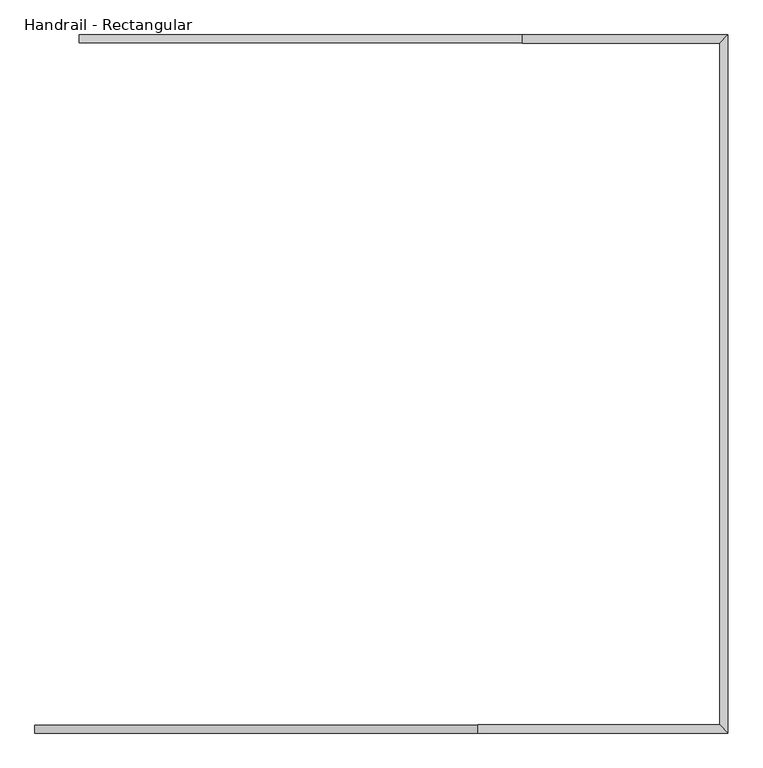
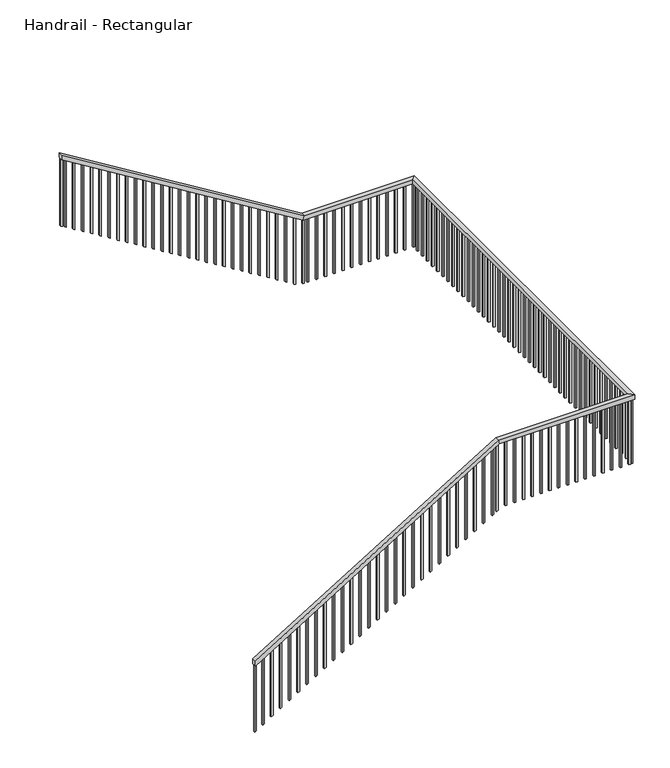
"""IFC4 building model written with IfcOpenShell, lengths in millimetres: railing geometry, Handrail - Rectangular."""

from ifc_helpers import new_model, si_unit, frame, origin, place, context, project, spatial, polyline, outline, extrude, faceted_brep, source, transform, mapped, element, save


def handrail_rectangular_f7c7f1c9(model_context):
    return source(origin(), model_context, "Body", "SolidModel", [
        faceted_brep([(447.564747, 6108.8260405, 31565.85), (447.564747, 6159.6260405, 31565.85), (447.564747, 6159.6260405, 31506.2481634), (447.564747, 6108.8260405, 31506.2481634), (3241.564747, 6108.8260405, 33280.35), (3241.564747, 6159.6260405, 33280.35), (3255.9084807, 6159.6260405, 33229.55), (3255.9084807, 6108.8260405, 33229.55), (4816.364747, 6108.8260405, 33280.35), (4765.564747, 6159.6260405, 33280.35), (4765.564747, 6159.6260405, 33229.55), (4816.364747, 6108.8260405, 33229.55), (4816.364747, 10506.2010405, 33280.35), (4765.564747, 10455.4010405, 33280.35), (4765.564747, 10455.4010405, 33229.55), (4816.364747, 10506.2010405, 33229.55), (3520.964747, 10506.2010405, 33280.35), (3520.964747, 10455.4010405, 33280.35), (3506.6210133, 10455.4010405, 33229.55), (3506.6210133, 10506.2010405, 33229.55), (726.964747, 10506.2010405, 34994.85), (726.964747, 10506.2010405, 34935.2481634), (726.964747, 10455.4010405, 34935.2481634), (726.964747, 10455.4010405, 34994.85)], [[[0, 1, 2, 3]], [[1, 0, 4, 5]], [[2, 1, 5, 6]], [[3, 2, 6, 7]], [[0, 3, 7, 4]], [[5, 4, 8, 9]], [[6, 5, 9, 10]], [[7, 6, 10, 11]], [[4, 7, 11, 8]], [[9, 8, 12, 13]], [[10, 9, 13, 14]], [[11, 10, 14, 15]], [[8, 11, 15, 12]], [[13, 12, 16, 17]], [[14, 13, 17, 18]], [[15, 14, 18, 19]], [[12, 15, 19, 16]], [[20, 21, 22, 23]], [[17, 16, 20, 23]], [[18, 17, 23, 22]], [[19, 18, 22, 21]], [[16, 19, 21, 20]]]),
        extrude(outline(polyline([(34898.2305498, 787.289747), (34909.9203225, 768.239747), (34096.4979284, 768.239747), (34084.8081556, 787.289747), (34898.2305498, 787.289747)])), frame((0.0, 10471.2760405, 0.0), z_axis=(0.0, 1.0, 0.0), x_axis=(0.0, 0.0, 1.0)), (0.0, 0.0, 1.0), 19.05),
        extrude(outline(polyline([(34835.8850952, 888.889747), (34847.5748679, 869.839747), (34034.1524738, 869.839747), (34022.4627011, 888.889747), (34835.8850952, 888.889747)])), frame((0.0, 10471.2760405, 0.0), z_axis=(0.0, 1.0, 0.0), x_axis=(0.0, 0.0, 1.0)), (0.0, 0.0, 1.0), 19.05),
        extrude(outline(polyline([(34773.5396407, 990.489747), (34785.2294134, 971.439747), (33971.8070193, 971.439747), (33960.1172466, 990.489747), (34773.5396407, 990.489747)])), frame((0.0, 10471.2760405, 0.0), z_axis=(0.0, 1.0, 0.0), x_axis=(0.0, 0.0, 1.0)), (0.0, 0.0, 1.0), 19.05),
        extrude(outline(polyline([(34711.1941861, 1092.089747), (34722.8839589, 1073.039747), (33909.4615647, 1073.039747), (33897.771792, 1092.089747), (34711.1941861, 1092.089747)])), frame((0.0, 10471.2760405, 0.0), z_axis=(0.0, 1.0, 0.0), x_axis=(0.0, 0.0, 1.0)), (0.0, 0.0, 1.0), 19.05),
        extrude(outline(polyline([(34648.8487316, 1193.689747), (34660.5385043, 1174.639747), (33847.1161102, 1174.639747), (33835.4263375, 1193.689747), (34648.8487316, 1193.689747)])), frame((0.0, 10471.2760405, 0.0), z_axis=(0.0, 1.0, 0.0), x_axis=(0.0, 0.0, 1.0)), (0.0, 0.0, 1.0), 19.05),
        extrude(outline(polyline([(34586.503277, 1295.289747), (34598.1930498, 1276.239747), (33784.7706556, 1276.239747), (33773.0808829, 1295.289747), (34586.503277, 1295.289747)])), frame((0.0, 10471.2760405, 0.0), z_axis=(0.0, 1.0, 0.0), x_axis=(0.0, 0.0, 1.0)), (0.0, 0.0, 1.0), 19.05),
        extrude(outline(polyline([(34524.1578225, 1396.889747), (34535.8475952, 1377.839747), (33722.4252011, 1377.839747), (33710.7354284, 1396.889747), (34524.1578225, 1396.889747)])), frame((0.0, 10471.2760405, 0.0), z_axis=(0.0, 1.0, 0.0), x_axis=(0.0, 0.0, 1.0)), (0.0, 0.0, 1.0), 19.05),
        extrude(outline(polyline([(34461.8123679, 1498.489747), (34473.5021407, 1479.439747), (33660.0797466, 1479.439747), (33648.3899738, 1498.489747), (34461.8123679, 1498.489747)])), frame((0.0, 10471.2760405, 0.0), z_axis=(0.0, 1.0, 0.0), x_axis=(0.0, 0.0, 1.0)), (0.0, 0.0, 1.0), 19.05),
        extrude(outline(polyline([(34399.4669134, 1600.089747), (34411.1566861, 1581.039747), (33597.734292, 1581.039747), (33586.0445193, 1600.089747), (34399.4669134, 1600.089747)])), frame((0.0, 10471.2760405, 0.0), z_axis=(0.0, 1.0, 0.0), x_axis=(0.0, 0.0, 1.0)), (0.0, 0.0, 1.0), 19.05),
        extrude(outline(polyline([(34337.1214589, 1701.689747), (34348.8112316, 1682.639747), (33535.3888375, 1682.639747), (33523.6990647, 1701.689747), (34337.1214589, 1701.689747)])), frame((0.0, 10471.2760405, 0.0), z_axis=(0.0, 1.0, 0.0), x_axis=(0.0, 0.0, 1.0)), (0.0, 0.0, 1.0), 19.05),
        extrude(outline(polyline([(34274.7760043, 1803.289747), (34286.465777, 1784.239747), (33473.0433829, 1784.239747), (33461.3536102, 1803.289747), (34274.7760043, 1803.289747)])), frame((0.0, 10471.2760405, 0.0), z_axis=(0.0, 1.0, 0.0), x_axis=(0.0, 0.0, 1.0)), (0.0, 0.0, 1.0), 19.05),
        extrude(outline(polyline([(34212.4305498, 1904.889747), (34224.1203225, 1885.839747), (33410.6979284, 1885.839747), (33399.0081556, 1904.889747), (34212.4305498, 1904.889747)])), frame((0.0, 10471.2760405, 0.0), z_axis=(0.0, 1.0, 0.0), x_axis=(0.0, 0.0, 1.0)), (0.0, 0.0, 1.0), 19.05),
        extrude(outline(polyline([(34150.0850952, 2006.489747), (34161.7748679, 1987.439747), (33348.3524738, 1987.439747), (33336.6627011, 2006.489747), (34150.0850952, 2006.489747)])), frame((0.0, 10471.2760405, 0.0), z_axis=(0.0, 1.0, 0.0), x_axis=(0.0, 0.0, 1.0)), (0.0, 0.0, 1.0), 19.05),
        extrude(outline(polyline([(34087.7396407, 2108.089747), (34099.4294134, 2089.039747), (33286.0070193, 2089.039747), (33274.3172466, 2108.089747), (34087.7396407, 2108.089747)])), frame((0.0, 10471.2760405, 0.0), z_axis=(0.0, 1.0, 0.0), x_axis=(0.0, 0.0, 1.0)), (0.0, 0.0, 1.0), 19.05),
        extrude(outline(polyline([(34025.3941861, 2209.689747), (34037.0839589, 2190.639747), (33223.6615647, 2190.639747), (33211.971792, 2209.689747), (34025.3941861, 2209.689747)])), frame((0.0, 10471.2760405, 0.0), z_axis=(0.0, 1.0, 0.0), x_axis=(0.0, 0.0, 1.0)), (0.0, 0.0, 1.0), 19.05),
        extrude(outline(polyline([(33963.0487316, 2311.289747), (33974.7385043, 2292.239747), (33161.3161102, 2292.239747), (33149.6263375, 2311.289747), (33963.0487316, 2311.289747)])), frame((0.0, 10471.2760405, 0.0), z_axis=(0.0, 1.0, 0.0), x_axis=(0.0, 0.0, 1.0)), (0.0, 0.0, 1.0), 19.05),
        extrude(outline(polyline([(33900.703277, 2412.889747), (33912.3930498, 2393.839747), (33098.9706556, 2393.839747), (33087.2808829, 2412.889747), (33900.703277, 2412.889747)])), frame((0.0, 10471.2760405, 0.0), z_axis=(0.0, 1.0, 0.0), x_axis=(0.0, 0.0, 1.0)), (0.0, 0.0, 1.0), 19.05),
        extrude(outline(polyline([(33838.3578225, 2514.489747), (33850.0475952, 2495.439747), (33036.6252011, 2495.439747), (33024.9354284, 2514.489747), (33838.3578225, 2514.489747)])), frame((0.0, 10471.2760405, 0.0), z_axis=(0.0, 1.0, 0.0), x_axis=(0.0, 0.0, 1.0)), (0.0, 0.0, 1.0), 19.05),
        extrude(outline(polyline([(33776.0123679, 2616.089747), (33787.7021407, 2597.039747), (32974.2797466, 2597.039747), (32962.5899738, 2616.089747), (33776.0123679, 2616.089747)])), frame((0.0, 10471.2760405, 0.0), z_axis=(0.0, 1.0, 0.0), x_axis=(0.0, 0.0, 1.0)), (0.0, 0.0, 1.0), 19.05),
        extrude(outline(polyline([(33713.6669134, 2717.689747), (33725.3566861, 2698.639747), (32911.934292, 2698.639747), (32900.2445193, 2717.689747), (33713.6669134, 2717.689747)])), frame((0.0, 10471.2760405, 0.0), z_axis=(0.0, 1.0, 0.0), x_axis=(0.0, 0.0, 1.0)), (0.0, 0.0, 1.0), 19.05),
        extrude(outline(polyline([(33651.3214589, 2819.289747), (33663.0112316, 2800.239747), (32849.5888375, 2800.239747), (32837.8990647, 2819.289747), (33651.3214589, 2819.289747)])), frame((0.0, 10471.2760405, 0.0), z_axis=(0.0, 1.0, 0.0), x_axis=(0.0, 0.0, 1.0)), (0.0, 0.0, 1.0), 19.05),
        extrude(outline(polyline([(33588.9760043, 2920.889747), (33600.665777, 2901.839747), (32787.2433829, 2901.839747), (32775.5536102, 2920.889747), (33588.9760043, 2920.889747)])), frame((0.0, 10471.2760405, 0.0), z_axis=(0.0, 1.0, 0.0), x_axis=(0.0, 0.0, 1.0)), (0.0, 0.0, 1.0), 19.05),
        extrude(outline(polyline([(33526.6305498, 3022.489747), (33538.3203225, 3003.439747), (32724.8979284, 3003.439747), (32713.2081556, 3022.489747), (33526.6305498, 3022.489747)])), frame((0.0, 10471.2760405, 0.0), z_axis=(0.0, 1.0, 0.0), x_axis=(0.0, 0.0, 1.0)), (0.0, 0.0, 1.0), 19.05),
        extrude(outline(polyline([(33464.2850952, 3124.089747), (33475.9748679, 3105.039747), (32662.5524738, 3105.039747), (32650.8627011, 3124.089747), (33464.2850952, 3124.089747)])), frame((0.0, 10471.2760405, 0.0), z_axis=(0.0, 1.0, 0.0), x_axis=(0.0, 0.0, 1.0)), (0.0, 0.0, 1.0), 19.05),
        extrude(outline(polyline([(33401.9396407, 3225.689747), (33413.6294134, 3206.639747), (32600.2070193, 3206.639747), (32588.5172466, 3225.689747), (33401.9396407, 3225.689747)])), frame((0.0, 10471.2760405, 0.0), z_axis=(0.0, 1.0, 0.0), x_axis=(0.0, 0.0, 1.0)), (0.0, 0.0, 1.0), 19.05),
        extrude(outline(polyline([(33339.5941861, 3327.289747), (33351.2839589, 3308.239747), (32537.8615647, 3308.239747), (32526.171792, 3327.289747), (33339.5941861, 3327.289747)])), frame((0.0, 10471.2760405, 0.0), z_axis=(0.0, 1.0, 0.0), x_axis=(0.0, 0.0, 1.0)), (0.0, 0.0, 1.0), 19.05),
        extrude(outline(polyline([(33277.2487316, 3428.889747), (33288.9385043, 3409.839747), (32475.5161102, 3409.839747), (32463.8263375, 3428.889747), (33277.2487316, 3428.889747)])), frame((0.0, 10471.2760405, 0.0), z_axis=(0.0, 1.0, 0.0), x_axis=(0.0, 0.0, 1.0)), (0.0, 0.0, 1.0), 19.05),
        extrude(outline(polyline([(3581.289747, 10490.3260405), (3581.289747, 10471.2760405), (3562.239747, 10471.2760405), (3562.239747, 10490.3260405), (3581.289747, 10490.3260405)])), frame((0.0, 0.0, 32442.15), z_axis=(0.0, 0.0, 1.0), x_axis=(1.0, 0.0, 0.0)), (0.0, 0.0, 1.0), 787.4),
        extrude(outline(polyline([(3682.889747, 10490.3260405), (3682.889747, 10471.2760405), (3663.839747, 10471.2760405), (3663.839747, 10490.3260405), (3682.889747, 10490.3260405)])), frame((0.0, 0.0, 32442.15), z_axis=(0.0, 0.0, 1.0), x_axis=(1.0, 0.0, 0.0)), (0.0, 0.0, 1.0), 787.4),
        extrude(outline(polyline([(3784.489747, 10490.3260405), (3784.489747, 10471.2760405), (3765.439747, 10471.2760405), (3765.439747, 10490.3260405), (3784.489747, 10490.3260405)])), frame((0.0, 0.0, 32442.15), z_axis=(0.0, 0.0, 1.0), x_axis=(1.0, 0.0, 0.0)), (0.0, 0.0, 1.0), 787.4),
        extrude(outline(polyline([(3886.089747, 10490.3260405), (3886.089747, 10471.2760405), (3867.039747, 10471.2760405), (3867.039747, 10490.3260405), (3886.089747, 10490.3260405)])), frame((0.0, 0.0, 32442.15), z_axis=(0.0, 0.0, 1.0), x_axis=(1.0, 0.0, 0.0)), (0.0, 0.0, 1.0), 787.4),
        extrude(outline(polyline([(3987.689747, 10490.3260405), (3987.689747, 10471.2760405), (3968.639747, 10471.2760405), (3968.639747, 10490.3260405), (3987.689747, 10490.3260405)])), frame((0.0, 0.0, 32442.15), z_axis=(0.0, 0.0, 1.0), x_axis=(1.0, 0.0, 0.0)), (0.0, 0.0, 1.0), 787.4),
        extrude(outline(polyline([(4089.289747, 10490.3260405), (4089.289747, 10471.2760405), (4070.239747, 10471.2760405), (4070.239747, 10490.3260405), (4089.289747, 10490.3260405)])), frame((0.0, 0.0, 32442.15), z_axis=(0.0, 0.0, 1.0), x_axis=(1.0, 0.0, 0.0)), (0.0, 0.0, 1.0), 787.4),
        extrude(outline(polyline([(4190.889747, 10490.3260405), (4190.889747, 10471.2760405), (4171.839747, 10471.2760405), (4171.839747, 10490.3260405), (4190.889747, 10490.3260405)])), frame((0.0, 0.0, 32442.15), z_axis=(0.0, 0.0, 1.0), x_axis=(1.0, 0.0, 0.0)), (0.0, 0.0, 1.0), 787.4),
        extrude(outline(polyline([(4292.489747, 10490.3260405), (4292.489747, 10471.2760405), (4273.439747, 10471.2760405), (4273.439747, 10490.3260405), (4292.489747, 10490.3260405)])), frame((0.0, 0.0, 32442.15), z_axis=(0.0, 0.0, 1.0), x_axis=(1.0, 0.0, 0.0)), (0.0, 0.0, 1.0), 787.4),
        extrude(outline(polyline([(4394.089747, 10490.3260405), (4394.089747, 10471.2760405), (4375.039747, 10471.2760405), (4375.039747, 10490.3260405), (4394.089747, 10490.3260405)])), frame((0.0, 0.0, 32442.15), z_axis=(0.0, 0.0, 1.0), x_axis=(1.0, 0.0, 0.0)), (0.0, 0.0, 1.0), 787.4),
        extrude(outline(polyline([(4495.689747, 10490.3260405), (4495.689747, 10471.2760405), (4476.639747, 10471.2760405), (4476.639747, 10490.3260405), (4495.689747, 10490.3260405)])), frame((0.0, 0.0, 32442.15), z_axis=(0.0, 0.0, 1.0), x_axis=(1.0, 0.0, 0.0)), (0.0, 0.0, 1.0), 787.4),
        extrude(outline(polyline([(4597.289747, 10490.3260405), (4597.289747, 10471.2760405), (4578.239747, 10471.2760405), (4578.239747, 10490.3260405), (4597.289747, 10490.3260405)])), frame((0.0, 0.0, 32442.15), z_axis=(0.0, 0.0, 1.0), x_axis=(1.0, 0.0, 0.0)), (0.0, 0.0, 1.0), 787.4),
        extrude(outline(polyline([(4698.889747, 10490.3260405), (4698.889747, 10471.2760405), (4679.839747, 10471.2760405), (4679.839747, 10490.3260405), (4698.889747, 10490.3260405)])), frame((0.0, 0.0, 32442.15), z_axis=(0.0, 0.0, 1.0), x_axis=(1.0, 0.0, 0.0)), (0.0, 0.0, 1.0), 787.4),
        extrude(outline(polyline([(4800.489747, 10391.9010405), (4781.439747, 10391.9010405), (4781.439747, 10410.9510405), (4800.489747, 10410.9510405), (4800.489747, 10391.9010405)])), frame((0.0, 0.0, 32442.15), z_axis=(0.0, 0.0, 1.0), x_axis=(1.0, 0.0, 0.0)), (0.0, 0.0, 1.0), 787.4),
        extrude(outline(polyline([(4800.489747, 10290.3010405), (4781.439747, 10290.3010405), (4781.439747, 10309.3510405), (4800.489747, 10309.3510405), (4800.489747, 10290.3010405)])), frame((0.0, 0.0, 32442.15), z_axis=(0.0, 0.0, 1.0), x_axis=(1.0, 0.0, 0.0)), (0.0, 0.0, 1.0), 787.4),
        extrude(outline(polyline([(4800.489747, 10188.7010405), (4781.439747, 10188.7010405), (4781.439747, 10207.7510405), (4800.489747, 10207.7510405), (4800.489747, 10188.7010405)])), frame((0.0, 0.0, 32442.15), z_axis=(0.0, 0.0, 1.0), x_axis=(1.0, 0.0, 0.0)), (0.0, 0.0, 1.0), 787.4),
        extrude(outline(polyline([(4800.489747, 10087.1010405), (4781.439747, 10087.1010405), (4781.439747, 10106.1510405), (4800.489747, 10106.1510405), (4800.489747, 10087.1010405)])), frame((0.0, 0.0, 32442.15), z_axis=(0.0, 0.0, 1.0), x_axis=(1.0, 0.0, 0.0)), (0.0, 0.0, 1.0), 787.4),
        extrude(outline(polyline([(4800.489747, 9985.5010405), (4781.439747, 9985.5010405), (4781.439747, 10004.5510405), (4800.489747, 10004.5510405), (4800.489747, 9985.5010405)])), frame((0.0, 0.0, 32442.15), z_axis=(0.0, 0.0, 1.0), x_axis=(1.0, 0.0, 0.0)), (0.0, 0.0, 1.0), 787.4),
        extrude(outline(polyline([(4800.489747, 9883.9010405), (4781.439747, 9883.9010405), (4781.439747, 9902.9510405), (4800.489747, 9902.9510405), (4800.489747, 9883.9010405)])), frame((0.0, 0.0, 32442.15), z_axis=(0.0, 0.0, 1.0), x_axis=(1.0, 0.0, 0.0)), (0.0, 0.0, 1.0), 787.4),
        extrude(outline(polyline([(4800.489747, 9782.3010405), (4781.439747, 9782.3010405), (4781.439747, 9801.3510405), (4800.489747, 9801.3510405), (4800.489747, 9782.3010405)])), frame((0.0, 0.0, 32442.15), z_axis=(0.0, 0.0, 1.0), x_axis=(1.0, 0.0, 0.0)), (0.0, 0.0, 1.0), 787.4),
        extrude(outline(polyline([(4800.489747, 9680.7010405), (4781.439747, 9680.7010405), (4781.439747, 9699.7510405), (4800.489747, 9699.7510405), (4800.489747, 9680.7010405)])), frame((0.0, 0.0, 32442.15), z_axis=(0.0, 0.0, 1.0), x_axis=(1.0, 0.0, 0.0)), (0.0, 0.0, 1.0), 787.4),
        extrude(outline(polyline([(4800.489747, 9579.1010405), (4781.439747, 9579.1010405), (4781.439747, 9598.1510405), (4800.489747, 9598.1510405), (4800.489747, 9579.1010405)])), frame((0.0, 0.0, 32442.15), z_axis=(0.0, 0.0, 1.0), x_axis=(1.0, 0.0, 0.0)), (0.0, 0.0, 1.0), 787.4),
        extrude(outline(polyline([(4800.489747, 9477.5010405), (4781.439747, 9477.5010405), (4781.439747, 9496.5510405), (4800.489747, 9496.5510405), (4800.489747, 9477.5010405)])), frame((0.0, 0.0, 32442.15), z_axis=(0.0, 0.0, 1.0), x_axis=(1.0, 0.0, 0.0)), (0.0, 0.0, 1.0), 787.4),
        extrude(outline(polyline([(4800.489747, 9375.9010405), (4781.439747, 9375.9010405), (4781.439747, 9394.9510405), (4800.489747, 9394.9510405), (4800.489747, 9375.9010405)])), frame((0.0, 0.0, 32442.15), z_axis=(0.0, 0.0, 1.0), x_axis=(1.0, 0.0, 0.0)), (0.0, 0.0, 1.0), 787.4),
        extrude(outline(polyline([(4800.489747, 9274.3010405), (4781.439747, 9274.3010405), (4781.439747, 9293.3510405), (4800.489747, 9293.3510405), (4800.489747, 9274.3010405)])), frame((0.0, 0.0, 32442.15), z_axis=(0.0, 0.0, 1.0), x_axis=(1.0, 0.0, 0.0)), (0.0, 0.0, 1.0), 787.4),
        extrude(outline(polyline([(4800.489747, 9172.7010405), (4781.439747, 9172.7010405), (4781.439747, 9191.7510405), (4800.489747, 9191.7510405), (4800.489747, 9172.7010405)])), frame((0.0, 0.0, 32442.15), z_axis=(0.0, 0.0, 1.0), x_axis=(1.0, 0.0, 0.0)), (0.0, 0.0, 1.0), 787.4),
        extrude(outline(polyline([(4800.489747, 9071.1010405), (4781.439747, 9071.1010405), (4781.439747, 9090.1510405), (4800.489747, 9090.1510405), (4800.489747, 9071.1010405)])), frame((0.0, 0.0, 32442.15), z_axis=(0.0, 0.0, 1.0), x_axis=(1.0, 0.0, 0.0)), (0.0, 0.0, 1.0), 787.4),
        extrude(outline(polyline([(4800.489747, 8969.5010405), (4781.439747, 8969.5010405), (4781.439747, 8988.5510405), (4800.489747, 8988.5510405), (4800.489747, 8969.5010405)])), frame((0.0, 0.0, 32442.15), z_axis=(0.0, 0.0, 1.0), x_axis=(1.0, 0.0, 0.0)), (0.0, 0.0, 1.0), 787.4),
        extrude(outline(polyline([(4800.489747, 8867.9010405), (4781.439747, 8867.9010405), (4781.439747, 8886.9510405), (4800.489747, 8886.9510405), (4800.489747, 8867.9010405)])), frame((0.0, 0.0, 32442.15), z_axis=(0.0, 0.0, 1.0), x_axis=(1.0, 0.0, 0.0)), (0.0, 0.0, 1.0), 787.4),
        extrude(outline(polyline([(4800.489747, 8766.3010405), (4781.439747, 8766.3010405), (4781.439747, 8785.3510405), (4800.489747, 8785.3510405), (4800.489747, 8766.3010405)])), frame((0.0, 0.0, 32442.15), z_axis=(0.0, 0.0, 1.0), x_axis=(1.0, 0.0, 0.0)), (0.0, 0.0, 1.0), 787.4),
        extrude(outline(polyline([(4800.489747, 8664.7010405), (4781.439747, 8664.7010405), (4781.439747, 8683.7510405), (4800.489747, 8683.7510405), (4800.489747, 8664.7010405)])), frame((0.0, 0.0, 32442.15), z_axis=(0.0, 0.0, 1.0), x_axis=(1.0, 0.0, 0.0)), (0.0, 0.0, 1.0), 787.4),
        extrude(outline(polyline([(4800.489747, 8563.1010405), (4781.439747, 8563.1010405), (4781.439747, 8582.1510405), (4800.489747, 8582.1510405), (4800.489747, 8563.1010405)])), frame((0.0, 0.0, 32442.15), z_axis=(0.0, 0.0, 1.0), x_axis=(1.0, 0.0, 0.0)), (0.0, 0.0, 1.0), 787.4),
        extrude(outline(polyline([(4800.489747, 8461.5010405), (4781.439747, 8461.5010405), (4781.439747, 8480.5510405), (4800.489747, 8480.5510405), (4800.489747, 8461.5010405)])), frame((0.0, 0.0, 32442.15), z_axis=(0.0, 0.0, 1.0), x_axis=(1.0, 0.0, 0.0)), (0.0, 0.0, 1.0), 787.4),
        extrude(outline(polyline([(4800.489747, 8359.9010405), (4781.439747, 8359.9010405), (4781.439747, 8378.9510405), (4800.489747, 8378.9510405), (4800.489747, 8359.9010405)])), frame((0.0, 0.0, 32442.15), z_axis=(0.0, 0.0, 1.0), x_axis=(1.0, 0.0, 0.0)), (0.0, 0.0, 1.0), 787.4),
        extrude(outline(polyline([(4800.489747, 8258.3010405), (4781.439747, 8258.3010405), (4781.439747, 8277.3510405), (4800.489747, 8277.3510405), (4800.489747, 8258.3010405)])), frame((0.0, 0.0, 32442.15), z_axis=(0.0, 0.0, 1.0), x_axis=(1.0, 0.0, 0.0)), (0.0, 0.0, 1.0), 787.4),
        extrude(outline(polyline([(4800.489747, 8156.7010405), (4781.439747, 8156.7010405), (4781.439747, 8175.7510405), (4800.489747, 8175.7510405), (4800.489747, 8156.7010405)])), frame((0.0, 0.0, 32442.15), z_axis=(0.0, 0.0, 1.0), x_axis=(1.0, 0.0, 0.0)), (0.0, 0.0, 1.0), 787.4),
        extrude(outline(polyline([(4800.489747, 8055.1010405), (4781.439747, 8055.1010405), (4781.439747, 8074.1510405), (4800.489747, 8074.1510405), (4800.489747, 8055.1010405)])), frame((0.0, 0.0, 32442.15), z_axis=(0.0, 0.0, 1.0), x_axis=(1.0, 0.0, 0.0)), (0.0, 0.0, 1.0), 787.4),
        extrude(outline(polyline([(4800.489747, 7953.5010405), (4781.439747, 7953.5010405), (4781.439747, 7972.5510405), (4800.489747, 7972.5510405), (4800.489747, 7953.5010405)])), frame((0.0, 0.0, 32442.15), z_axis=(0.0, 0.0, 1.0), x_axis=(1.0, 0.0, 0.0)), (0.0, 0.0, 1.0), 787.4),
        extrude(outline(polyline([(4800.489747, 7851.9010405), (4781.439747, 7851.9010405), (4781.439747, 7870.9510405), (4800.489747, 7870.9510405), (4800.489747, 7851.9010405)])), frame((0.0, 0.0, 32442.15), z_axis=(0.0, 0.0, 1.0), x_axis=(1.0, 0.0, 0.0)), (0.0, 0.0, 1.0), 787.4),
        extrude(outline(polyline([(4800.489747, 7750.3010405), (4781.439747, 7750.3010405), (4781.439747, 7769.3510405), (4800.489747, 7769.3510405), (4800.489747, 7750.3010405)])), frame((0.0, 0.0, 32442.15), z_axis=(0.0, 0.0, 1.0), x_axis=(1.0, 0.0, 0.0)), (0.0, 0.0, 1.0), 787.4),
        extrude(outline(polyline([(4800.489747, 7648.7010405), (4781.439747, 7648.7010405), (4781.439747, 7667.7510405), (4800.489747, 7667.7510405), (4800.489747, 7648.7010405)])), frame((0.0, 0.0, 32442.15), z_axis=(0.0, 0.0, 1.0), x_axis=(1.0, 0.0, 0.0)), (0.0, 0.0, 1.0), 787.4),
        extrude(outline(polyline([(4800.489747, 7547.1010405), (4781.439747, 7547.1010405), (4781.439747, 7566.1510405), (4800.489747, 7566.1510405), (4800.489747, 7547.1010405)])), frame((0.0, 0.0, 32442.15), z_axis=(0.0, 0.0, 1.0), x_axis=(1.0, 0.0, 0.0)), (0.0, 0.0, 1.0), 787.4),
        extrude(outline(polyline([(4800.489747, 7445.5010405), (4781.439747, 7445.5010405), (4781.439747, 7464.5510405), (4800.489747, 7464.5510405), (4800.489747, 7445.5010405)])), frame((0.0, 0.0, 32442.15), z_axis=(0.0, 0.0, 1.0), x_axis=(1.0, 0.0, 0.0)), (0.0, 0.0, 1.0), 787.4),
        extrude(outline(polyline([(4800.489747, 7343.9010405), (4781.439747, 7343.9010405), (4781.439747, 7362.9510405), (4800.489747, 7362.9510405), (4800.489747, 7343.9010405)])), frame((0.0, 0.0, 32442.15), z_axis=(0.0, 0.0, 1.0), x_axis=(1.0, 0.0, 0.0)), (0.0, 0.0, 1.0), 787.4),
        extrude(outline(polyline([(4800.489747, 7242.3010405), (4781.439747, 7242.3010405), (4781.439747, 7261.3510405), (4800.489747, 7261.3510405), (4800.489747, 7242.3010405)])), frame((0.0, 0.0, 32442.15), z_axis=(0.0, 0.0, 1.0), x_axis=(1.0, 0.0, 0.0)), (0.0, 0.0, 1.0), 787.4),
        extrude(outline(polyline([(4800.489747, 7140.7010405), (4781.439747, 7140.7010405), (4781.439747, 7159.7510405), (4800.489747, 7159.7510405), (4800.489747, 7140.7010405)])), frame((0.0, 0.0, 32442.15), z_axis=(0.0, 0.0, 1.0), x_axis=(1.0, 0.0, 0.0)), (0.0, 0.0, 1.0), 787.4),
        extrude(outline(polyline([(4800.489747, 7039.1010405), (4781.439747, 7039.1010405), (4781.439747, 7058.1510405), (4800.489747, 7058.1510405), (4800.489747, 7039.1010405)])), frame((0.0, 0.0, 32442.15), z_axis=(0.0, 0.0, 1.0), x_axis=(1.0, 0.0, 0.0)), (0.0, 0.0, 1.0), 787.4),
        extrude(outline(polyline([(4800.489747, 6937.5010405), (4781.439747, 6937.5010405), (4781.439747, 6956.5510405), (4800.489747, 6956.5510405), (4800.489747, 6937.5010405)])), frame((0.0, 0.0, 32442.15), z_axis=(0.0, 0.0, 1.0), x_axis=(1.0, 0.0, 0.0)), (0.0, 0.0, 1.0), 787.4),
        extrude(outline(polyline([(4800.489747, 6835.9010405), (4781.439747, 6835.9010405), (4781.439747, 6854.9510405), (4800.489747, 6854.9510405), (4800.489747, 6835.9010405)])), frame((0.0, 0.0, 32442.15), z_axis=(0.0, 0.0, 1.0), x_axis=(1.0, 0.0, 0.0)), (0.0, 0.0, 1.0), 787.4),
        extrude(outline(polyline([(4800.489747, 6734.3010405), (4781.439747, 6734.3010405), (4781.439747, 6753.3510405), (4800.489747, 6753.3510405), (4800.489747, 6734.3010405)])), frame((0.0, 0.0, 32442.15), z_axis=(0.0, 0.0, 1.0), x_axis=(1.0, 0.0, 0.0)), (0.0, 0.0, 1.0), 787.4),
        extrude(outline(polyline([(4800.489747, 6632.7010405), (4781.439747, 6632.7010405), (4781.439747, 6651.7510405), (4800.489747, 6651.7510405), (4800.489747, 6632.7010405)])), frame((0.0, 0.0, 32442.15), z_axis=(0.0, 0.0, 1.0), x_axis=(1.0, 0.0, 0.0)), (0.0, 0.0, 1.0), 787.4),
        extrude(outline(polyline([(4800.489747, 6531.1010405), (4781.439747, 6531.1010405), (4781.439747, 6550.1510405), (4800.489747, 6550.1510405), (4800.489747, 6531.1010405)])), frame((0.0, 0.0, 32442.15), z_axis=(0.0, 0.0, 1.0), x_axis=(1.0, 0.0, 0.0)), (0.0, 0.0, 1.0), 787.4),
        extrude(outline(polyline([(4800.489747, 6429.5010405), (4781.439747, 6429.5010405), (4781.439747, 6448.5510405), (4800.489747, 6448.5510405), (4800.489747, 6429.5010405)])), frame((0.0, 0.0, 32442.15), z_axis=(0.0, 0.0, 1.0), x_axis=(1.0, 0.0, 0.0)), (0.0, 0.0, 1.0), 787.4),
        extrude(outline(polyline([(4800.489747, 6327.9010405), (4781.439747, 6327.9010405), (4781.439747, 6346.9510405), (4800.489747, 6346.9510405), (4800.489747, 6327.9010405)])), frame((0.0, 0.0, 32442.15), z_axis=(0.0, 0.0, 1.0), x_axis=(1.0, 0.0, 0.0)), (0.0, 0.0, 1.0), 787.4),
        extrude(outline(polyline([(4800.489747, 6226.3010405), (4781.439747, 6226.3010405), (4781.439747, 6245.3510405), (4800.489747, 6245.3510405), (4800.489747, 6226.3010405)])), frame((0.0, 0.0, 32442.15), z_axis=(0.0, 0.0, 1.0), x_axis=(1.0, 0.0, 0.0)), (0.0, 0.0, 1.0), 787.4),
        extrude(outline(polyline([(4756.039747, 6124.7010405), (4756.039747, 6143.7510405), (4775.089747, 6143.7510405), (4775.089747, 6124.7010405), (4756.039747, 6124.7010405)])), frame((0.0, 0.0, 32442.15), z_axis=(0.0, 0.0, 1.0), x_axis=(1.0, 0.0, 0.0)), (0.0, 0.0, 1.0), 787.4),
        extrude(outline(polyline([(4654.439747, 6124.7010405), (4654.439747, 6143.7510405), (4673.489747, 6143.7510405), (4673.489747, 6124.7010405), (4654.439747, 6124.7010405)])), frame((0.0, 0.0, 32442.15), z_axis=(0.0, 0.0, 1.0), x_axis=(1.0, 0.0, 0.0)), (0.0, 0.0, 1.0), 787.4),
        extrude(outline(polyline([(4552.839747, 6124.7010405), (4552.839747, 6143.7510405), (4571.889747, 6143.7510405), (4571.889747, 6124.7010405), (4552.839747, 6124.7010405)])), frame((0.0, 0.0, 32442.15), z_axis=(0.0, 0.0, 1.0), x_axis=(1.0, 0.0, 0.0)), (0.0, 0.0, 1.0), 787.4),
        extrude(outline(polyline([(4451.239747, 6124.7010405), (4451.239747, 6143.7510405), (4470.289747, 6143.7510405), (4470.289747, 6124.7010405), (4451.239747, 6124.7010405)])), frame((0.0, 0.0, 32442.15), z_axis=(0.0, 0.0, 1.0), x_axis=(1.0, 0.0, 0.0)), (0.0, 0.0, 1.0), 787.4),
        extrude(outline(polyline([(4349.639747, 6124.7010405), (4349.639747, 6143.7510405), (4368.689747, 6143.7510405), (4368.689747, 6124.7010405), (4349.639747, 6124.7010405)])), frame((0.0, 0.0, 32442.15), z_axis=(0.0, 0.0, 1.0), x_axis=(1.0, 0.0, 0.0)), (0.0, 0.0, 1.0), 787.4),
        extrude(outline(polyline([(4248.039747, 6124.7010405), (4248.039747, 6143.7510405), (4267.089747, 6143.7510405), (4267.089747, 6124.7010405), (4248.039747, 6124.7010405)])), frame((0.0, 0.0, 32442.15), z_axis=(0.0, 0.0, 1.0), x_axis=(1.0, 0.0, 0.0)), (0.0, 0.0, 1.0), 787.4),
        extrude(outline(polyline([(4146.439747, 6124.7010405), (4146.439747, 6143.7510405), (4165.489747, 6143.7510405), (4165.489747, 6124.7010405), (4146.439747, 6124.7010405)])), frame((0.0, 0.0, 32442.15), z_axis=(0.0, 0.0, 1.0), x_axis=(1.0, 0.0, 0.0)), (0.0, 0.0, 1.0), 787.4),
        extrude(outline(polyline([(4044.839747, 6124.7010405), (4044.839747, 6143.7510405), (4063.889747, 6143.7510405), (4063.889747, 6124.7010405), (4044.839747, 6124.7010405)])), frame((0.0, 0.0, 32442.15), z_axis=(0.0, 0.0, 1.0), x_axis=(1.0, 0.0, 0.0)), (0.0, 0.0, 1.0), 787.4),
        extrude(outline(polyline([(3943.239747, 6124.7010405), (3943.239747, 6143.7510405), (3962.289747, 6143.7510405), (3962.289747, 6124.7010405), (3943.239747, 6124.7010405)])), frame((0.0, 0.0, 32442.15), z_axis=(0.0, 0.0, 1.0), x_axis=(1.0, 0.0, 0.0)), (0.0, 0.0, 1.0), 787.4),
        extrude(outline(polyline([(3841.639747, 6124.7010405), (3841.639747, 6143.7510405), (3860.689747, 6143.7510405), (3860.689747, 6124.7010405), (3841.639747, 6124.7010405)])), frame((0.0, 0.0, 32442.15), z_axis=(0.0, 0.0, 1.0), x_axis=(1.0, 0.0, 0.0)), (0.0, 0.0, 1.0), 787.4),
        extrude(outline(polyline([(3740.039747, 6124.7010405), (3740.039747, 6143.7510405), (3759.089747, 6143.7510405), (3759.089747, 6124.7010405), (3740.039747, 6124.7010405)])), frame((0.0, 0.0, 32442.15), z_axis=(0.0, 0.0, 1.0), x_axis=(1.0, 0.0, 0.0)), (0.0, 0.0, 1.0), 787.4),
        extrude(outline(polyline([(3638.439747, 6124.7010405), (3638.439747, 6143.7510405), (3657.489747, 6143.7510405), (3657.489747, 6124.7010405), (3638.439747, 6124.7010405)])), frame((0.0, 0.0, 32442.15), z_axis=(0.0, 0.0, 1.0), x_axis=(1.0, 0.0, 0.0)), (0.0, 0.0, 1.0), 787.4),
        extrude(outline(polyline([(3536.839747, 6124.7010405), (3536.839747, 6143.7510405), (3555.889747, 6143.7510405), (3555.889747, 6124.7010405), (3536.839747, 6124.7010405)])), frame((0.0, 0.0, 32442.15), z_axis=(0.0, 0.0, 1.0), x_axis=(1.0, 0.0, 0.0)), (0.0, 0.0, 1.0), 787.4),
        extrude(outline(polyline([(3435.239747, 6124.7010405), (3435.239747, 6143.7510405), (3454.289747, 6143.7510405), (3454.289747, 6124.7010405), (3435.239747, 6124.7010405)])), frame((0.0, 0.0, 32442.15), z_axis=(0.0, 0.0, 1.0), x_axis=(1.0, 0.0, 0.0)), (0.0, 0.0, 1.0), 787.4),
        extrude(outline(polyline([(3333.639747, 6124.7010405), (3333.639747, 6143.7510405), (3352.689747, 6143.7510405), (3352.689747, 6124.7010405), (3333.639747, 6124.7010405)])), frame((0.0, 0.0, 32442.15), z_axis=(0.0, 0.0, 1.0), x_axis=(1.0, 0.0, 0.0)), (0.0, 0.0, 1.0), 787.4),
        extrude(outline(polyline([(33195.4203225, 3200.289747), (33183.7305498, 3181.239747), (32370.3081556, 3181.239747), (32381.9979284, 3200.289747), (33195.4203225, 3200.289747)])), frame((0.0, 6124.7010405, 0.0), z_axis=(0.0, 1.0, 0.0), x_axis=(0.0, 0.0, 1.0)), (0.0, 0.0, 1.0), 19.05),
        extrude(outline(polyline([(33133.0748679, 3098.689747), (33121.3850952, 3079.639747), (32307.9627011, 3079.639747), (32319.6524738, 3098.689747), (33133.0748679, 3098.689747)])), frame((0.0, 6124.7010405, 0.0), z_axis=(0.0, 1.0, 0.0), x_axis=(0.0, 0.0, 1.0)), (0.0, 0.0, 1.0), 19.05),
        extrude(outline(polyline([(33070.7294134, 2997.089747), (33059.0396407, 2978.039747), (32245.6172466, 2978.039747), (32257.3070193, 2997.089747), (33070.7294134, 2997.089747)])), frame((0.0, 6124.7010405, 0.0), z_axis=(0.0, 1.0, 0.0), x_axis=(0.0, 0.0, 1.0)), (0.0, 0.0, 1.0), 19.05),
        extrude(outline(polyline([(33008.3839589, 2895.489747), (32996.6941861, 2876.439747), (32183.271792, 2876.439747), (32194.9615647, 2895.489747), (33008.3839589, 2895.489747)])), frame((0.0, 6124.7010405, 0.0), z_axis=(0.0, 1.0, 0.0), x_axis=(0.0, 0.0, 1.0)), (0.0, 0.0, 1.0), 19.05),
        extrude(outline(polyline([(32946.0385043, 2793.889747), (32934.3487316, 2774.839747), (32120.9263375, 2774.839747), (32132.6161102, 2793.889747), (32946.0385043, 2793.889747)])), frame((0.0, 6124.7010405, 0.0), z_axis=(0.0, 1.0, 0.0), x_axis=(0.0, 0.0, 1.0)), (0.0, 0.0, 1.0), 19.05),
        extrude(outline(polyline([(32883.6930498, 2692.289747), (32872.003277, 2673.239747), (32058.5808829, 2673.239747), (32070.2706556, 2692.289747), (32883.6930498, 2692.289747)])), frame((0.0, 6124.7010405, 0.0), z_axis=(0.0, 1.0, 0.0), x_axis=(0.0, 0.0, 1.0)), (0.0, 0.0, 1.0), 19.05),
        extrude(outline(polyline([(32821.3475952, 2590.689747), (32809.6578225, 2571.639747), (31996.2354284, 2571.639747), (32007.9252011, 2590.689747), (32821.3475952, 2590.689747)])), frame((0.0, 6124.7010405, 0.0), z_axis=(0.0, 1.0, 0.0), x_axis=(0.0, 0.0, 1.0)), (0.0, 0.0, 1.0), 19.05),
        extrude(outline(polyline([(32759.0021407, 2489.089747), (32747.3123679, 2470.039747), (31933.8899738, 2470.039747), (31945.5797466, 2489.089747), (32759.0021407, 2489.089747)])), frame((0.0, 6124.7010405, 0.0), z_axis=(0.0, 1.0, 0.0), x_axis=(0.0, 0.0, 1.0)), (0.0, 0.0, 1.0), 19.05),
        extrude(outline(polyline([(32696.6566861, 2387.489747), (32684.9669134, 2368.439747), (31871.5445193, 2368.439747), (31883.234292, 2387.489747), (32696.6566861, 2387.489747)])), frame((0.0, 6124.7010405, 0.0), z_axis=(0.0, 1.0, 0.0), x_axis=(0.0, 0.0, 1.0)), (0.0, 0.0, 1.0), 19.05),
        extrude(outline(polyline([(32634.3112316, 2285.889747), (32622.6214589, 2266.839747), (31809.1990647, 2266.839747), (31820.8888375, 2285.889747), (32634.3112316, 2285.889747)])), frame((0.0, 6124.7010405, 0.0), z_axis=(0.0, 1.0, 0.0), x_axis=(0.0, 0.0, 1.0)), (0.0, 0.0, 1.0), 19.05),
        extrude(outline(polyline([(32571.965777, 2184.289747), (32560.2760043, 2165.239747), (31746.8536102, 2165.239747), (31758.5433829, 2184.289747), (32571.965777, 2184.289747)])), frame((0.0, 6124.7010405, 0.0), z_axis=(0.0, 1.0, 0.0), x_axis=(0.0, 0.0, 1.0)), (0.0, 0.0, 1.0), 19.05),
        extrude(outline(polyline([(32509.6203225, 2082.689747), (32497.9305498, 2063.639747), (31684.5081556, 2063.639747), (31696.1979284, 2082.689747), (32509.6203225, 2082.689747)])), frame((0.0, 6124.7010405, 0.0), z_axis=(0.0, 1.0, 0.0), x_axis=(0.0, 0.0, 1.0)), (0.0, 0.0, 1.0), 19.05),
        extrude(outline(polyline([(32447.2748679, 1981.089747), (32435.5850952, 1962.039747), (31622.1627011, 1962.039747), (31633.8524738, 1981.089747), (32447.2748679, 1981.089747)])), frame((0.0, 6124.7010405, 0.0), z_axis=(0.0, 1.0, 0.0), x_axis=(0.0, 0.0, 1.0)), (0.0, 0.0, 1.0), 19.05),
        extrude(outline(polyline([(32384.9294134, 1879.489747), (32373.2396407, 1860.439747), (31559.8172466, 1860.439747), (31571.5070193, 1879.489747), (32384.9294134, 1879.489747)])), frame((0.0, 6124.7010405, 0.0), z_axis=(0.0, 1.0, 0.0), x_axis=(0.0, 0.0, 1.0)), (0.0, 0.0, 1.0), 19.05),
        extrude(outline(polyline([(32322.5839589, 1777.889747), (32310.8941861, 1758.839747), (31497.471792, 1758.839747), (31509.1615647, 1777.889747), (32322.5839589, 1777.889747)])), frame((0.0, 6124.7010405, 0.0), z_axis=(0.0, 1.0, 0.0), x_axis=(0.0, 0.0, 1.0)), (0.0, 0.0, 1.0), 19.05),
        extrude(outline(polyline([(32260.2385043, 1676.289747), (32248.5487316, 1657.239747), (31435.1263375, 1657.239747), (31446.8161102, 1676.289747), (32260.2385043, 1676.289747)])), frame((0.0, 6124.7010405, 0.0), z_axis=(0.0, 1.0, 0.0), x_axis=(0.0, 0.0, 1.0)), (0.0, 0.0, 1.0), 19.05),
        extrude(outline(polyline([(32197.8930498, 1574.689747), (32186.203277, 1555.639747), (31372.7808829, 1555.639747), (31384.4706556, 1574.689747), (32197.8930498, 1574.689747)])), frame((0.0, 6124.7010405, 0.0), z_axis=(0.0, 1.0, 0.0), x_axis=(0.0, 0.0, 1.0)), (0.0, 0.0, 1.0), 19.05),
        extrude(outline(polyline([(32135.5475952, 1473.089747), (32123.8578225, 1454.039747), (31310.4354284, 1454.039747), (31322.1252011, 1473.089747), (32135.5475952, 1473.089747)])), frame((0.0, 6124.7010405, 0.0), z_axis=(0.0, 1.0, 0.0), x_axis=(0.0, 0.0, 1.0)), (0.0, 0.0, 1.0), 19.05),
        extrude(outline(polyline([(32073.2021407, 1371.489747), (32061.5123679, 1352.439747), (31248.0899738, 1352.439747), (31259.7797466, 1371.489747), (32073.2021407, 1371.489747)])), frame((0.0, 6124.7010405, 0.0), z_axis=(0.0, 1.0, 0.0), x_axis=(0.0, 0.0, 1.0)), (0.0, 0.0, 1.0), 19.05),
        extrude(outline(polyline([(32010.8566861, 1269.889747), (31999.1669134, 1250.839747), (31185.7445193, 1250.839747), (31197.434292, 1269.889747), (32010.8566861, 1269.889747)])), frame((0.0, 6124.7010405, 0.0), z_axis=(0.0, 1.0, 0.0), x_axis=(0.0, 0.0, 1.0)), (0.0, 0.0, 1.0), 19.05),
        extrude(outline(polyline([(31948.5112316, 1168.289747), (31936.8214589, 1149.239747), (31123.3990647, 1149.239747), (31135.0888375, 1168.289747), (31948.5112316, 1168.289747)])), frame((0.0, 6124.7010405, 0.0), z_axis=(0.0, 1.0, 0.0), x_axis=(0.0, 0.0, 1.0)), (0.0, 0.0, 1.0), 19.05),
        extrude(outline(polyline([(31886.165777, 1066.689747), (31874.4760043, 1047.639747), (31061.0536102, 1047.639747), (31072.7433829, 1066.689747), (31886.165777, 1066.689747)])), frame((0.0, 6124.7010405, 0.0), z_axis=(0.0, 1.0, 0.0), x_axis=(0.0, 0.0, 1.0)), (0.0, 0.0, 1.0), 19.05),
        extrude(outline(polyline([(31823.8203225, 965.089747), (31812.1305498, 946.039747), (30998.7081556, 946.039747), (31010.3979284, 965.089747), (31823.8203225, 965.089747)])), frame((0.0, 6124.7010405, 0.0), z_axis=(0.0, 1.0, 0.0), x_axis=(0.0, 0.0, 1.0)), (0.0, 0.0, 1.0), 19.05),
        extrude(outline(polyline([(31761.4748679, 863.489747), (31749.7850952, 844.439747), (30936.3627011, 844.439747), (30948.0524738, 863.489747), (31761.4748679, 863.489747)])), frame((0.0, 6124.7010405, 0.0), z_axis=(0.0, 1.0, 0.0), x_axis=(0.0, 0.0, 1.0)), (0.0, 0.0, 1.0), 19.05),
        extrude(outline(polyline([(31699.1294134, 761.889747), (31687.4396407, 742.839747), (30874.0172466, 742.839747), (30885.7070193, 761.889747), (31699.1294134, 761.889747)])), frame((0.0, 6124.7010405, 0.0), z_axis=(0.0, 1.0, 0.0), x_axis=(0.0, 0.0, 1.0)), (0.0, 0.0, 1.0), 19.05),
        extrude(outline(polyline([(31636.7839589, 660.289747), (31625.0941861, 641.239747), (30811.671792, 641.239747), (30823.3615647, 660.289747), (31636.7839589, 660.289747)])), frame((0.0, 6124.7010405, 0.0), z_axis=(0.0, 1.0, 0.0), x_axis=(0.0, 0.0, 1.0)), (0.0, 0.0, 1.0), 19.05),
        extrude(outline(polyline([(31574.4385043, 558.689747), (31562.7487316, 539.639747), (30749.3263375, 539.639747), (30761.0161102, 558.689747), (31574.4385043, 558.689747)])), frame((0.0, 6124.7010405, 0.0), z_axis=(0.0, 1.0, 0.0), x_axis=(0.0, 0.0, 1.0)), (0.0, 0.0, 1.0), 19.05),
        extrude(outline(polyline([(3530.489747, 10490.3260405), (3530.489747, 10471.2760405), (3511.439747, 10471.2760405), (3511.439747, 10490.3260405), (3530.489747, 10490.3260405)])), frame((0.0, 0.0, 32442.15), z_axis=(0.0, 0.0, 1.0), x_axis=(1.0, 0.0, 0.0)), (0.0, 0.0, 1.0), 787.4),
        extrude(outline(polyline([(4800.489747, 10471.2760405), (4781.439747, 10471.2760405), (4781.439747, 10490.3260405), (4800.489747, 10490.3260405), (4800.489747, 10471.2760405)])), frame((0.0, 0.0, 32442.15), z_axis=(0.0, 0.0, 1.0), x_axis=(1.0, 0.0, 0.0)), (0.0, 0.0, 1.0), 787.4),
        extrude(outline(polyline([(4781.439747, 6124.7010405), (4781.439747, 6143.7510405), (4800.489747, 6143.7510405), (4800.489747, 6124.7010405), (4781.439747, 6124.7010405)])), frame((0.0, 0.0, 32442.15), z_axis=(0.0, 0.0, 1.0), x_axis=(1.0, 0.0, 0.0)), (0.0, 0.0, 1.0), 787.4),
        extrude(outline(polyline([(33226.5930498, 3251.089747), (33214.903277, 3232.039747), (32401.4808829, 3232.039747), (32413.1706556, 3251.089747), (33226.5930498, 3251.089747)])), frame((0.0, 6124.7010405, 0.0), z_axis=(0.0, 1.0, 0.0), x_axis=(0.0, 0.0, 1.0)), (0.0, 0.0, 1.0), 19.05),
        extrude(outline(polyline([(34923.5583907, 746.014747), (34935.2481634, 726.964747), (34121.8257693, 726.964747), (34110.1359966, 746.014747), (34923.5583907, 746.014747)])), frame((0.0, 10471.2760405, 0.0), z_axis=(0.0, 1.0, 0.0), x_axis=(0.0, 0.0, 1.0)), (0.0, 0.0, 1.0), 19.05),
        extrude(outline(polyline([(31517.9379361, 466.614747), (31506.2481634, 447.564747), (30692.8257693, 447.564747), (30704.515542, 466.614747), (31517.9379361, 466.614747)])), frame((0.0, 6124.7010405, 0.0), z_axis=(0.0, 1.0, 0.0), x_axis=(0.0, 0.0, 1.0)), (0.0, 0.0, 1.0), 19.05),
    ])


if __name__ == "__main__":
    model = new_model("IFC4")
    model_context = context("Model", 3, world=origin())
    ifc_project = project(units=[si_unit("LENGTHUNIT", "METRE", prefix="MILLI")], contexts=[model_context])
    site = spatial("IfcSite", under=ifc_project)
    building = spatial("IfcBuilding", under=site)
    placement = place(None, origin())
    handrail_rectangular_shape = handrail_rectangular_f7c7f1c9(model_context)
    element("IfcRailing", 1, ObjectType="Handrail - Rectangular", at=placement, inside=building, context=model_context, shape_type="MappedRepresentation", body=[
        mapped(handrail_rectangular_shape, transform((0.0, 0.0, 0.0), x_axis=(1.0, 0.0, 0.0), y_axis=(0.0, 1.0, 0.0), z_axis=(0.0, 0.0, 1.0))),
    ])
    save(model, "model.ifc")
